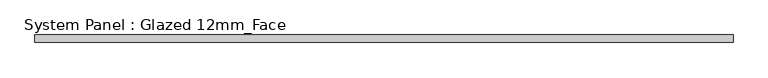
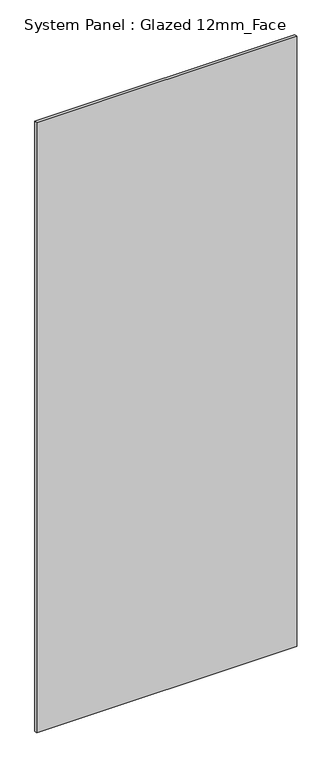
"""IFC4 building model written with IfcOpenShell, lengths in millimetres: plate geometry, System Panel : Glazed 12mm_Face."""

from ifc_helpers import new_model, si_unit, origin, origin_with_axes, place, context, project, spatial, polyline, outline, extrude, source, transform, mapped, element, save


def system_panel_glazed_12mm_face_eaaf4d0e(model_context):
    return source(origin(), model_context, "Body", "SweptSolid", [
        extrude(outline(polyline([(564.1878558, 0.0), (-564.1878558, 0.0), (-564.1878558, 12.0), (564.1878558, 12.0), (564.1878558, 0.0)])), origin_with_axes(), (0.0, 0.0, 1.0), 2800.0),
    ])


if __name__ == "__main__":
    model = new_model("IFC4")
    model_context = context("Model", 3, world=origin())
    ifc_project = project(units=[si_unit("LENGTHUNIT", "METRE", prefix="MILLI")], contexts=[model_context])
    site = spatial("IfcSite", under=ifc_project)
    building = spatial("IfcBuilding", under=site)
    placement = place(None, origin())
    system_panel_glazed_12mm_face_shape = system_panel_glazed_12mm_face_eaaf4d0e(model_context)
    element("IfcPlate", 1, ObjectType="System Panel : Glazed 12mm_Face", at=placement, inside=building, context=model_context, shape_type="MappedRepresentation", body=[
        mapped(system_panel_glazed_12mm_face_shape, transform((0.0, 0.0, 0.0), x_axis=(1.0, 0.0, 0.0), y_axis=(0.0, 1.0, 0.0), z_axis=(0.0, 0.0, 1.0))),
    ])
    save(model, "model.ifc")
